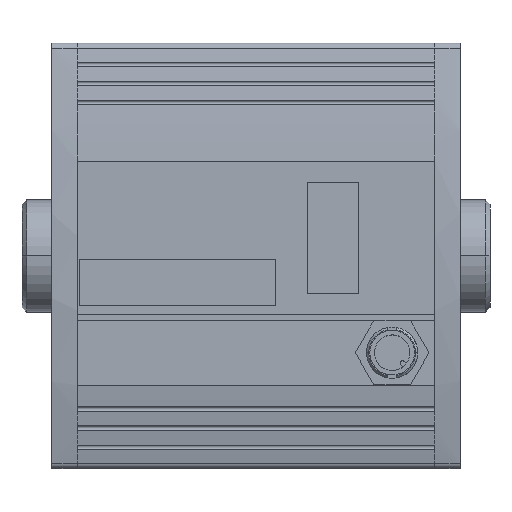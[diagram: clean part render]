
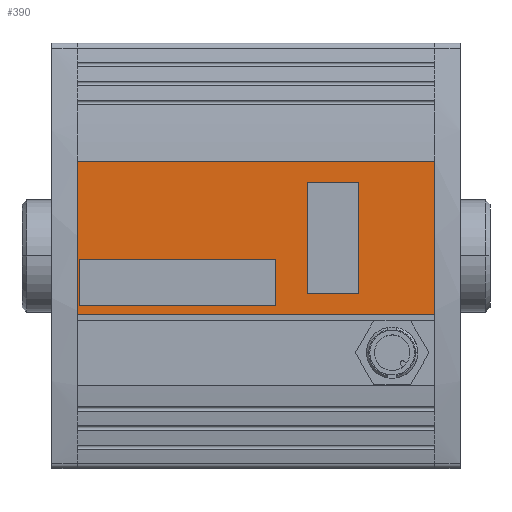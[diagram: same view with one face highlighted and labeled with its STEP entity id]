
A CAD part, top view. The second image highlights one B-rep face of the part: STEP entity #390.
In plain terms, the highlighted planar face has unit normal (0, 0, 1).
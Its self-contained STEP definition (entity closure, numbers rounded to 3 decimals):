
#390 = ADVANCED_FACE( '', ( #1143, #1144, #1145 ), #1146, .T. );
#1143 = FACE_BOUND( '', #2009, .T. );
#1144 = FACE_BOUND( '', #2010, .T. );
#1145 = FACE_OUTER_BOUND( '', #2011, .T. );
#1146 = PLANE( '', #2012 );
#2009 = EDGE_LOOP( '', ( #4706, #4707, #4708, #4709 ) );
#2010 = EDGE_LOOP( '', ( #4710, #4711, #4712, #4713 ) );
#2011 = EDGE_LOOP( '', ( #4714, #4715, #4716, #4717 ) );
#2012 = AXIS2_PLACEMENT_3D( '', #4718, #4719, #4720 );
#4706 = ORIENTED_EDGE( '', *, *, #6121, .T. );
#4707 = ORIENTED_EDGE( '', *, *, #6130, .T. );
#4708 = ORIENTED_EDGE( '', *, *, #6127, .T. );
#4709 = ORIENTED_EDGE( '', *, *, #6124, .T. );
#4710 = ORIENTED_EDGE( '', *, *, #6133, .T. );
#4711 = ORIENTED_EDGE( '', *, *, #6142, .T. );
#4712 = ORIENTED_EDGE( '', *, *, #6139, .T. );
#4713 = ORIENTED_EDGE( '', *, *, #6136, .T. );
#4714 = ORIENTED_EDGE( '', *, *, #6288, .T. );
#4715 = ORIENTED_EDGE( '', *, *, #6473, .F. );
#4716 = ORIENTED_EDGE( '', *, *, #6396, .F. );
#4717 = ORIENTED_EDGE( '', *, *, #6474, .T. );
#4718 = CARTESIAN_POINT( '', ( 42., 22.2, 45.37 ) );
#4719 = DIRECTION( '', ( 0., 0., 1. ) );
#4720 = DIRECTION( '', ( 0., 1., 0. ) );
#6121 = EDGE_CURVE( '', #7564, #7562, #7565, .T. );
#6124 = EDGE_CURVE( '', #7569, #7564, #7570, .T. );
#6127 = EDGE_CURVE( '', #7574, #7569, #7575, .T. );
#6130 = EDGE_CURVE( '', #7562, #7574, #7578, .T. );
#6133 = EDGE_CURVE( '', #7584, #7582, #7585, .T. );
#6136 = EDGE_CURVE( '', #7589, #7584, #7590, .T. );
#6139 = EDGE_CURVE( '', #7594, #7589, #7595, .T. );
#6142 = EDGE_CURVE( '', #7582, #7594, #7598, .T. );
#6288 = EDGE_CURVE( '', #7818, #7816, #7819, .T. );
#6396 = EDGE_CURVE( '', #8003, #8005, #8006, .T. );
#6473 = EDGE_CURVE( '', #8005, #7816, #8134, .T. );
#6474 = EDGE_CURVE( '', #8003, #7818, #8135, .T. );
#7562 = VERTEX_POINT( '', #10359 );
#7564 = VERTEX_POINT( '', #10362 );
#7565 = LINE( '', #10363, #10364 );
#7569 = VERTEX_POINT( '', #10370 );
#7570 = LINE( '', #10371, #10372 );
#7574 = VERTEX_POINT( '', #10378 );
#7575 = LINE( '', #10379, #10380 );
#7578 = LINE( '', #10385, #10386 );
#7582 = VERTEX_POINT( '', #10391 );
#7584 = VERTEX_POINT( '', #10394 );
#7585 = LINE( '', #10395, #10396 );
#7589 = VERTEX_POINT( '', #10402 );
#7590 = LINE( '', #10403, #10404 );
#7594 = VERTEX_POINT( '', #10410 );
#7595 = LINE( '', #10411, #10412 );
#7598 = LINE( '', #10417, #10418 );
#7816 = VERTEX_POINT( '', #10734 );
#7818 = VERTEX_POINT( '', #10737 );
#7819 = LINE( '', #10738, #10739 );
#8003 = VERTEX_POINT( '', #10962 );
#8005 = VERTEX_POINT( '', #10965 );
#8006 = LINE( '', #10966, #10967 );
#8134 = LINE( '', #11120, #11121 );
#8135 = LINE( '', #11122, #11123 );
#10359 = CARTESIAN_POINT( '', ( 24., -8.8, 45.37 ) );
#10362 = CARTESIAN_POINT( '', ( 24., 17.2, 45.37 ) );
#10363 = CARTESIAN_POINT( '', ( 24., 6.7, 45.37 ) );
#10364 = VECTOR( '', #12211, 1. );
#10370 = CARTESIAN_POINT( '', ( 12., 17.2, 45.37 ) );
#10371 = CARTESIAN_POINT( '', ( 33., 17.2, 45.37 ) );
#10372 = VECTOR( '', #12214, 1. );
#10378 = CARTESIAN_POINT( '', ( 12., -8.8, 45.37 ) );
#10379 = CARTESIAN_POINT( '', ( 12., 19.7, 45.37 ) );
#10380 = VECTOR( '', #12217, 1. );
#10385 = CARTESIAN_POINT( '', ( 27., -8.8, 45.37 ) );
#10386 = VECTOR( '', #12220, 1. );
#10391 = CARTESIAN_POINT( '', ( -41.5, -11.8, 45.37 ) );
#10394 = CARTESIAN_POINT( '', ( 4.7, -11.8, 45.37 ) );
#10395 = CARTESIAN_POINT( '', ( 0.25, -11.8, 45.37 ) );
#10396 = VECTOR( '', #12223, 1. );
#10402 = CARTESIAN_POINT( '', ( 4.7, -0.8, 45.37 ) );
#10403 = CARTESIAN_POINT( '', ( 4.7, 5.2, 45.37 ) );
#10404 = VECTOR( '', #12226, 1. );
#10410 = CARTESIAN_POINT( '', ( -41.5, -0.8, 45.37 ) );
#10411 = CARTESIAN_POINT( '', ( 23.35, -0.8, 45.37 ) );
#10412 = VECTOR( '', #12229, 1. );
#10417 = CARTESIAN_POINT( '', ( -41.5, 10.7, 45.37 ) );
#10418 = VECTOR( '', #12232, 1. );
#10734 = CARTESIAN_POINT( '', ( -42., -13.8, 45.37 ) );
#10737 = CARTESIAN_POINT( '', ( -42., 22.2, 45.37 ) );
#10738 = CARTESIAN_POINT( '', ( -42., 22.2, 45.37 ) );
#10739 = VECTOR( '', #12500, 1. );
#10962 = CARTESIAN_POINT( '', ( 42., 22.2, 45.37 ) );
#10965 = CARTESIAN_POINT( '', ( 42., -13.8, 45.37 ) );
#10966 = CARTESIAN_POINT( '', ( 42., 22.2, 45.37 ) );
#10967 = VECTOR( '', #12742, 1. );
#11120 = CARTESIAN_POINT( '', ( 42., -13.8, 45.37 ) );
#11121 = VECTOR( '', #12921, 1. );
#11122 = CARTESIAN_POINT( '', ( 42., 22.2, 45.37 ) );
#11123 = VECTOR( '', #12922, 1. );
#12211 = DIRECTION( '', ( 0., -1., 0. ) );
#12214 = DIRECTION( '', ( 1., 0., 0. ) );
#12217 = DIRECTION( '', ( 0., 1., 0. ) );
#12220 = DIRECTION( '', ( -1., 0., 0. ) );
#12223 = DIRECTION( '', ( -1., 0., 0. ) );
#12226 = DIRECTION( '', ( 0., -1., 0. ) );
#12229 = DIRECTION( '', ( 1., 0., 0. ) );
#12232 = DIRECTION( '', ( 0., 1., 0. ) );
#12500 = DIRECTION( '', ( 0., -1., 0. ) );
#12742 = DIRECTION( '', ( 0., -1., 0. ) );
#12921 = DIRECTION( '', ( -1., 0., 0. ) );
#12922 = DIRECTION( '', ( -1., 0., 0. ) );
